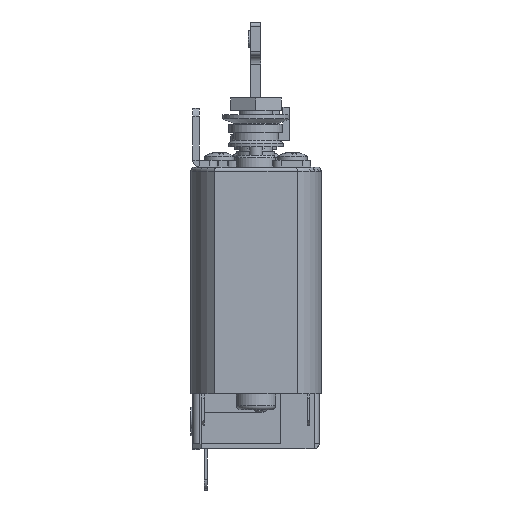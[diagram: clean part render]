
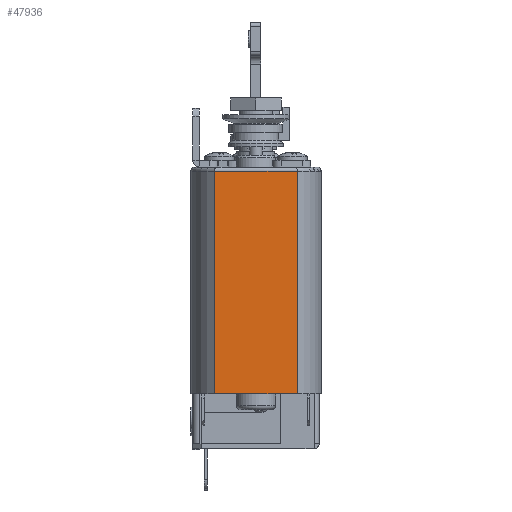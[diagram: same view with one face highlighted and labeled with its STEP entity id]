
A CAD part, left-side view. The second image highlights one B-rep face of the part: STEP entity #47936.
In plain terms, the highlighted planar face has unit normal (-1, 0, 0).
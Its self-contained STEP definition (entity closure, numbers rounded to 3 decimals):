
#35766 = VERTEX_POINT('',#35767);
#35767 = CARTESIAN_POINT('',(-80.5,4.905,-8.7));
#35811 = CYLINDRICAL_SURFACE('',#35812,0.5);
#35812 = AXIS2_PLACEMENT_3D('',#35813,#35814,#35815);
#35813 = CARTESIAN_POINT('',(-80.,-4.905,-8.7));
#35814 = DIRECTION('',(0.,1.,0.));
#35815 = DIRECTION('',(0.,0.,1.));
#35853 = CYLINDRICAL_SURFACE('',#35854,7.75);
#35854 = AXIS2_PLACEMENT_3D('',#35855,#35856,#35857);
#35855 = CARTESIAN_POINT('',(-74.5,0.,-8.2));
#35856 = DIRECTION('',(0.,0.,1.));
#35857 = DIRECTION('',(0.,-1.,0.));
#43205 = VERTEX_POINT('',#43206);
#43206 = CARTESIAN_POINT('',(-80.5,-4.905,-8.7));
#43272 = EDGE_CURVE('',#43205,#35766,#43273,.T.);
#43273 = SURFACE_CURVE('',#43274,(#43278,#43285),.PCURVE_S1.);
#43274 = LINE('',#43275,#43276);
#43275 = CARTESIAN_POINT('',(-80.5,-4.905,-8.7));
#43276 = VECTOR('',#43277,1.);
#43277 = DIRECTION('',(0.,1.,0.));
#43278 = PCURVE('',#35811,#43279);
#43279 = DEFINITIONAL_REPRESENTATION('',(#43280),#43284);
#43280 = LINE('',#43281,#43282);
#43281 = CARTESIAN_POINT('',(-1.571,0.));
#43282 = VECTOR('',#43283,1.);
#43283 = DIRECTION('',(-0.,1.));
#43284 = ( GEOMETRIC_REPRESENTATION_CONTEXT(2) 
PARAMETRIC_REPRESENTATION_CONTEXT() REPRESENTATION_CONTEXT('2D SPACE',''
  ) );
#43285 = PCURVE('',#43286,#43291);
#43286 = PLANE('',#43287);
#43287 = AXIS2_PLACEMENT_3D('',#43288,#43289,#43290);
#43288 = CARTESIAN_POINT('',(-80.5,12.,-41.2));
#43289 = DIRECTION('',(1.,0.,0.));
#43290 = DIRECTION('',(0.,0.,1.));
#43291 = DEFINITIONAL_REPRESENTATION('',(#43292),#43296);
#43292 = LINE('',#43293,#43294);
#43293 = CARTESIAN_POINT('',(32.5,16.905));
#43294 = VECTOR('',#43295,1.);
#43295 = DIRECTION('',(0.,-1.));
#43296 = ( GEOMETRIC_REPRESENTATION_CONTEXT(2) 
PARAMETRIC_REPRESENTATION_CONTEXT() REPRESENTATION_CONTEXT('2D SPACE',''
  ) );
#43330 = EDGE_CURVE('',#43331,#35766,#43333,.T.);
#43331 = VERTEX_POINT('',#43332);
#43332 = CARTESIAN_POINT('',(-80.5,4.905,-35.1));
#43333 = SURFACE_CURVE('',#43334,(#43338,#43344),.PCURVE_S1.);
#43334 = LINE('',#43335,#43336);
#43335 = CARTESIAN_POINT('',(-80.5,4.905,-8.2));
#43336 = VECTOR('',#43337,1.);
#43337 = DIRECTION('',(0.,0.,1.));
#43338 = PCURVE('',#35853,#43339);
#43339 = DEFINITIONAL_REPRESENTATION('',(#43340),#43343);
#43340 = B_SPLINE_CURVE_WITH_KNOTS('',1,(#43341,#43342),.UNSPECIFIED.,
  .F.,.F.,(2,2),(-26.9,0.),.PIECEWISE_BEZIER_KNOTS.);
#43341 = CARTESIAN_POINT('',(4.027,-26.9));
#43342 = CARTESIAN_POINT('',(4.027,0.));
#43343 = ( GEOMETRIC_REPRESENTATION_CONTEXT(2) 
PARAMETRIC_REPRESENTATION_CONTEXT() REPRESENTATION_CONTEXT('2D SPACE',''
  ) );
#43344 = PCURVE('',#43286,#43345);
#43345 = DEFINITIONAL_REPRESENTATION('',(#43346),#43349);
#43346 = B_SPLINE_CURVE_WITH_KNOTS('',1,(#43347,#43348),.UNSPECIFIED.,
  .F.,.F.,(2,2),(-26.9,0.),.PIECEWISE_BEZIER_KNOTS.);
#43347 = CARTESIAN_POINT('',(6.1,7.095));
#43348 = CARTESIAN_POINT('',(33.,7.095));
#43349 = ( GEOMETRIC_REPRESENTATION_CONTEXT(2) 
PARAMETRIC_REPRESENTATION_CONTEXT() REPRESENTATION_CONTEXT('2D SPACE',''
  ) );
#43388 = PLANE('',#43389);
#43389 = AXIS2_PLACEMENT_3D('',#43390,#43391,#43392);
#43390 = CARTESIAN_POINT('',(-74.5,0.,-35.1));
#43391 = DIRECTION('',(0.,0.,1.));
#43392 = DIRECTION('',(0.,-1.,0.));
#43464 = CYLINDRICAL_SURFACE('',#43465,7.75);
#43465 = AXIS2_PLACEMENT_3D('',#43466,#43467,#43468);
#43466 = CARTESIAN_POINT('',(-74.5,0.,-8.2));
#43467 = DIRECTION('',(0.,0.,1.));
#43468 = DIRECTION('',(0.,-1.,0.));
#47936 = ADVANCED_FACE('',(#47937),#43286,.F.);
#47937 = FACE_BOUND('',#47938,.F.);
#47938 = EDGE_LOOP('',(#47939,#47940,#47941,#47962));
#47939 = ORIENTED_EDGE('',*,*,#43330,.T.);
#47940 = ORIENTED_EDGE('',*,*,#43272,.F.);
#47941 = ORIENTED_EDGE('',*,*,#47942,.F.);
#47942 = EDGE_CURVE('',#47943,#43205,#47945,.T.);
#47943 = VERTEX_POINT('',#47944);
#47944 = CARTESIAN_POINT('',(-80.5,-4.905,-35.1));
#47945 = SURFACE_CURVE('',#47946,(#47950,#47956),.PCURVE_S1.);
#47946 = LINE('',#47947,#47948);
#47947 = CARTESIAN_POINT('',(-80.5,-4.905,-8.2));
#47948 = VECTOR('',#47949,1.);
#47949 = DIRECTION('',(0.,0.,1.));
#47950 = PCURVE('',#43286,#47951);
#47951 = DEFINITIONAL_REPRESENTATION('',(#47952),#47955);
#47952 = B_SPLINE_CURVE_WITH_KNOTS('',1,(#47953,#47954),.UNSPECIFIED.,
  .F.,.F.,(2,2),(-26.9,0.),.PIECEWISE_BEZIER_KNOTS.);
#47953 = CARTESIAN_POINT('',(6.1,16.905));
#47954 = CARTESIAN_POINT('',(33.,16.905));
#47955 = ( GEOMETRIC_REPRESENTATION_CONTEXT(2) 
PARAMETRIC_REPRESENTATION_CONTEXT() REPRESENTATION_CONTEXT('2D SPACE',''
  ) );
#47956 = PCURVE('',#43464,#47957);
#47957 = DEFINITIONAL_REPRESENTATION('',(#47958),#47961);
#47958 = B_SPLINE_CURVE_WITH_KNOTS('',1,(#47959,#47960),.UNSPECIFIED.,
  .F.,.F.,(2,2),(-26.9,0.),.PIECEWISE_BEZIER_KNOTS.);
#47959 = CARTESIAN_POINT('',(5.398,-26.9));
#47960 = CARTESIAN_POINT('',(5.398,0.));
#47961 = ( GEOMETRIC_REPRESENTATION_CONTEXT(2) 
PARAMETRIC_REPRESENTATION_CONTEXT() REPRESENTATION_CONTEXT('2D SPACE',''
  ) );
#47962 = ORIENTED_EDGE('',*,*,#47963,.T.);
#47963 = EDGE_CURVE('',#47943,#43331,#47964,.T.);
#47964 = SURFACE_CURVE('',#47965,(#47969,#47975),.PCURVE_S1.);
#47965 = LINE('',#47966,#47967);
#47966 = CARTESIAN_POINT('',(-80.5,6.,-35.1));
#47967 = VECTOR('',#47968,1.);
#47968 = DIRECTION('',(0.,1.,0.));
#47969 = PCURVE('',#43286,#47970);
#47970 = DEFINITIONAL_REPRESENTATION('',(#47971),#47974);
#47971 = B_SPLINE_CURVE_WITH_KNOTS('',1,(#47972,#47973),.UNSPECIFIED.,
  .F.,.F.,(2,2),(-13.75,1.75),.PIECEWISE_BEZIER_KNOTS.);
#47972 = CARTESIAN_POINT('',(6.1,19.75));
#47973 = CARTESIAN_POINT('',(6.1,4.25));
#47974 = ( GEOMETRIC_REPRESENTATION_CONTEXT(2) 
PARAMETRIC_REPRESENTATION_CONTEXT() REPRESENTATION_CONTEXT('2D SPACE',''
  ) );
#47975 = PCURVE('',#43388,#47976);
#47976 = DEFINITIONAL_REPRESENTATION('',(#47977),#47980);
#47977 = B_SPLINE_CURVE_WITH_KNOTS('',1,(#47978,#47979),.UNSPECIFIED.,
  .F.,.F.,(2,2),(-13.75,1.75),.PIECEWISE_BEZIER_KNOTS.);
#47978 = CARTESIAN_POINT('',(7.75,-6.));
#47979 = CARTESIAN_POINT('',(-7.75,-6.));
#47980 = ( GEOMETRIC_REPRESENTATION_CONTEXT(2) 
PARAMETRIC_REPRESENTATION_CONTEXT() REPRESENTATION_CONTEXT('2D SPACE',''
  ) );
